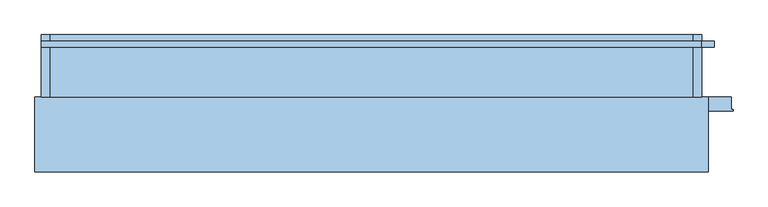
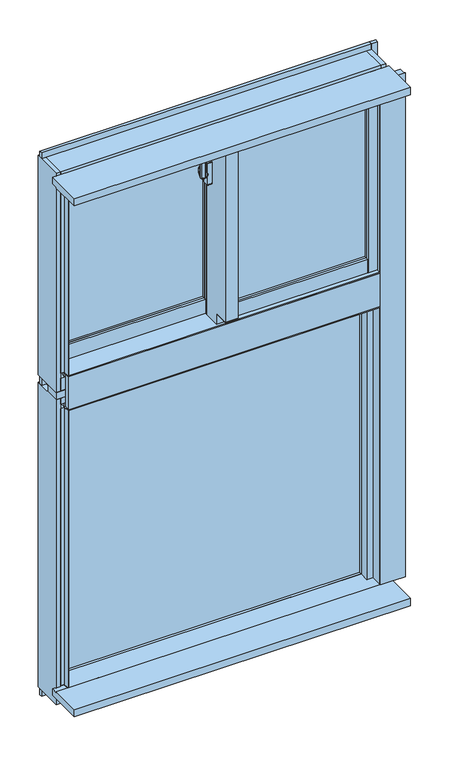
"""IFC4 building model written with IfcOpenShell, lengths in millimetres: window geometry, FNSⅡ100R_非防火_面付枠_段窓_分解無目 : 隠蔽式突出排煙/引違."""

from ifc_helpers import new_model, si_unit, point, frame, frame_2d, origin, place, context, project, spatial, polyline, circle_curve, trimmed, segment, composite_curve, outline, extrude, faceted_brep, source, transform, mapped, element, save
from ifc_brep_helpers import plane_surface, cylinder_surface, revolved_surface, advanced_brep


def window_3053c77e(model_context):
    return source(origin(), model_context, "Body", "SolidModel", [
        extrude(outline(composite_curve([segment(polyline([(-39.0, 34.6), (-39.0, 26.4)]), True, "CONTINUOUS"), segment(trimmed(circle_curve(frame_2d((-41.0, 26.4)), 2.0), [point((-39.0, 26.4))], [point((-41.3606557, 24.4327869))], False, "CARTESIAN"), True, "CONTINUOUS"), segment(polyline([(-41.3606557, 24.4327869), (-52.3606557, 26.4494536)]), True, "CONTINUOUS"), segment(trimmed(circle_curve(frame_2d((-52.0, 28.4166667)), 2.0), [point((-52.3606557, 26.4494536))], [point((-54.0, 28.4166667))], False, "CARTESIAN"), True, "CONTINUOUS"), segment(polyline([(-54.0, 28.4166667), (-54.0, 32.5833333)]), True, "CONTINUOUS"), segment(trimmed(circle_curve(frame_2d((-52.0, 32.5833333)), 2.0), [point((-54.0, 32.5833333))], [point((-52.3606557, 34.5505464))], False, "CARTESIAN"), True, "CONTINUOUS"), segment(polyline([(-52.3606557, 34.5505464), (-41.3606557, 36.5672131)]), True, "CONTINUOUS"), segment(trimmed(circle_curve(frame_2d((-41.0, 34.6)), 2.0), [point((-41.3606557, 36.5672131))], [point((-39.0, 34.6))], False, "CARTESIAN"), True, "CONTINUOUS")], self_intersect=False)), frame((0.0, 0.0, 2450.0), z_axis=(0.0, 0.0, 1.0), x_axis=(1.0, 0.0, 0.0)), (0.0, 0.0, 1.0), 100.0),
        advanced_brep(
        [(-37.5, 38.8234285, 2481.7333311), (-45.5, 38.8234285, 2481.7333311), (-45.5, 38.4351999, 2480.2844424), (-39.0, 38.4351999, 2480.2844424), (-39.0, 36.6234666, 2473.5229616), (-37.5, 36.6234666, 2473.5229616), (-39.0, 36.6466117, 2439.3190372), (-45.5, 36.6466117, 2439.3190372), (-45.5, 36.907084, 2437.8418256), (-37.5, 36.907084, 2437.8418256), (-37.5, 35.4310745, 2446.2126915), (-39.0, 35.4310745, 2446.2126915)],
        [
            (0, 1),
            (1, 2),
            (2, 3),
            (3, 4),
            (4, 5),
            (5, 0),
            (6, 7),
            (7, 8),
            (8, 9),
            (9, 10),
            (10, 11),
            (11, 6),
            (0, 9, circle_curve(frame((-37.5, 33.0, 2460.0), z_axis=(-1.0, 0.0, 0.0), x_axis=(0.0, 0.25881904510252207, 0.965925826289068)), 22.5)),
            (8, 1, circle_curve(frame((-45.5, 33.0, 2460.0), z_axis=(1.0, 0.0, 0.0), x_axis=(0.0, 0.25881904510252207, 0.965925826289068)), 22.5)),
            (7, 2, circle_curve(frame((-45.5, 33.0, 2460.0), z_axis=(1.0, 0.0, 0.0), x_axis=(0.0, 0.25881904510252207, 0.965925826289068)), 21.0)),
            (6, 3, circle_curve(frame((-39.0, 33.0, 2460.0), z_axis=(1.0, 0.0, 0.0), x_axis=(0.0, 0.25881904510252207, 0.965925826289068)), 21.0)),
            (11, 4, circle_curve(frame((-39.0, 33.0, 2460.0), z_axis=(-1.0, 0.0, 0.0), x_axis=(0.0, -1.0, 0.0)), 14.0)),
            (5, 10, circle_curve(frame((-37.5, 33.0, 2460.0), z_axis=(1.0, 0.0, 0.0), x_axis=(0.0, -1.0, 0.0)), 14.0)),
        ],
        [
            plane_surface(frame((-43.5470497, 33.0, 2460.0), z_axis=(0.0, -0.965925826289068, 0.25881904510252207), x_axis=(0.0, 0.25881904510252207, 0.965925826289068))),
            plane_surface(frame((-43.5470497, 33.0, 2460.0), z_axis=(0.0, -0.9848077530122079, -0.17364817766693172), x_axis=(0.0, 0.17364817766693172, -0.9848077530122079))),
            cylinder_surface(frame((-43.5470497, 33.0, 2460.0), z_axis=(-1.0, 0.0, 0.0), x_axis=(0.0, 0.25881904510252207, 0.965925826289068)), 22.5),
            plane_surface(frame((-45.5, 33.0, 2460.0), z_axis=(-1.0, 0.0, 0.0), x_axis=(0.0, 0.25881904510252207, 0.965925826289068))),
            revolved_surface(polyline([(-45.5, 38.43519994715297, 2480.2844423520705), (-39.0, 38.43519994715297, 2480.2844423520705)]), (-43.5470497, 33.0, 2460.0), (-1.0, 0.0, 0.0)),
            plane_surface(frame((-39.0, 33.0, 2460.0), z_axis=(-1.0, 0.0, 0.0), x_axis=(0.0, 0.25881904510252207, 0.965925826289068))),
            plane_surface(frame((-37.5, 33.0, 2460.0), z_axis=(1.0, 0.0, 0.0), x_axis=(0.0, 0.25881904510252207, 0.965925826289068))),
            cylinder_surface(frame((-37.5, 33.0, 2460.0), z_axis=(-1.0, 0.0, 0.0), x_axis=(0.0, -1.0, 0.0)), 14.0),
        ],
        [
            (0, [[1, 2, 3, 4, 5, 6]]),
            (1, [[7, 8, 9, 10, 11, 12]]),
            (2, [[-1, 13, -9, 14]]),
            (3, [[-2, -14, -8, 15]]),
            (4, [[-3, -15, -7, 16]]),
            (5, [[-16, -12, 17, -4]]),
            (6, [[-13, -6, 18, -10]]),
            (7, [[-17, -11, -18, -5]]),
        ],
    ),
        extrude(outline(composite_curve([segment(trimmed(circle_curve(frame_2d((33.0, 2460.0)), 11.5), [point((44.5, 2460.0))], [point((21.5, 2460.0))], False, "CARTESIAN"), True, "CONTINUOUS"), segment(trimmed(circle_curve(frame_2d((33.0, 2460.0)), 11.5), [point((21.5, 2460.0))], [point((44.5, 2460.0))], False, "CARTESIAN"), True, "CONTINUOUS")], self_intersect=False)), frame((-37.5, 0.0, 0.0), z_axis=(1.0, 0.0, 0.0), x_axis=(0.0, 1.0, 0.0)), (0.0, 0.0, 1.0), 2.5),
        extrude(outline(composite_curve([segment(polyline([(24.0, 2497.5), (42.0, 2497.5)]), True, "CONTINUOUS"), segment(trimmed(circle_curve(frame_2d((42.0, 2495.5)), 2.0), [point((42.0, 2497.5))], [point((44.0, 2495.5))], False, "CARTESIAN"), True, "CONTINUOUS"), segment(polyline([(44.0, 2495.5), (44.0, 2424.5)]), True, "CONTINUOUS"), segment(trimmed(circle_curve(frame_2d((42.0, 2424.5)), 2.0), [point((44.0, 2424.5))], [point((42.0, 2422.5))], False, "CARTESIAN"), True, "CONTINUOUS"), segment(polyline([(42.0, 2422.5), (24.0, 2422.5)]), True, "CONTINUOUS"), segment(trimmed(circle_curve(frame_2d((24.0, 2424.5)), 2.0), [point((24.0, 2422.5))], [point((22.0, 2424.5))], False, "CARTESIAN"), True, "CONTINUOUS"), segment(polyline([(22.0, 2424.5), (22.0, 2495.5)]), True, "CONTINUOUS"), segment(trimmed(circle_curve(frame_2d((24.0, 2495.5)), 2.0), [point((22.0, 2495.5))], [point((24.0, 2497.5))], False, "CARTESIAN"), True, "CONTINUOUS")], self_intersect=False)), frame((-35.0, 0.0, 0.0), z_axis=(1.0, 0.0, 0.0), x_axis=(0.0, 1.0, 0.0)), (0.0, 0.0, 1.0), 15.0),
        extrude(outline(polyline([(20.0, 24.0), (468.0, 24.0), (468.0, 18.0), (20.0, 18.0), (20.0, 24.0)])), frame((0.0, 0.0, 2008.0), z_axis=(0.0, 0.0, 1.0), x_axis=(1.0, 0.0, 0.0)), (0.0, 0.0, 1.0), 562.0),
        extrude(outline(polyline([(20.0, 42.0), (468.0, 42.0), (468.0, 36.0), (20.0, 36.0), (20.0, 42.0)])), frame((0.0, 0.0, 2008.0), z_axis=(0.0, 0.0, 1.0), x_axis=(1.0, 0.0, 0.0)), (0.0, 0.0, 1.0), 562.0),
        extrude(outline(polyline([(-468.0, 82.0), (-20.0, 82.0), (-20.0, 76.0), (-468.0, 76.0), (-468.0, 82.0)])), frame((0.0, 0.0, 2008.0), z_axis=(0.0, 0.0, 1.0), x_axis=(1.0, 0.0, 0.0)), (0.0, 0.0, 1.0), 562.0),
        extrude(outline(polyline([(-468.0, 100.0), (-20.0, 100.0), (-20.0, 94.0), (-468.0, 94.0), (-468.0, 100.0)])), frame((0.0, 0.0, 2008.0), z_axis=(0.0, 0.0, 1.0), x_axis=(1.0, 0.0, 0.0)), (0.0, 0.0, 1.0), 562.0),
        faceted_brep([(-500.0, 108.0, 2610.0), (-468.0, 108.0, 2610.0), (-468.0, 108.0, 1920.0), (-500.0, 108.0, 1920.0), (-500.0, 79.0, 1920.0), (-500.0, 79.0, 2610.0), (-489.5, 79.0, 1960.0), (-468.0, 79.0, 1960.0), (-468.0, 66.0, 1960.0), (-489.5, 66.0, 1960.0), (-468.0, 79.0, 1920.0), (-489.5, 79.0, 2610.0), (-489.5, 66.0, 2610.0), (-468.0, 66.0, 2610.0)], [[[0, 1, 2, 3]], [[4, 5, 0, 3]], [[6, 7, 8, 9]], [[10, 4, 3, 2]], [[5, 11, 12, 13, 1, 0]], [[11, 5, 4, 10, 7, 6]], [[12, 11, 6, 9]], [[13, 12, 9, 8]], [[1, 13, 8, 7, 10, 2]]]),
        faceted_brep([(-20.0, 108.0, 1920.0), (20.0, 108.0, 1920.0), (20.0, 79.0, 1920.0), (-20.0, 79.0, 1920.0), (-1.8, 65.5, 2610.0), (-20.0, 65.5, 2610.0), (-20.0, 65.5, 1960.0), (-1.8, 65.5, 1960.0), (-1.8, 53.1, 2610.0), (-1.8, 53.1, 1960.0), (20.0, 53.1, 2610.0), (20.0, 53.1, 1960.0), (-20.0, 108.0, 2610.0), (20.0, 108.0, 2610.0), (-20.0, 79.0, 1960.0), (20.0, 79.0, 1960.0)], [[[0, 1, 2, 3]], [[4, 5, 6, 7]], [[8, 4, 7, 9]], [[10, 8, 9, 11]], [[12, 13, 1, 0]], [[14, 15, 11, 9, 7, 6]], [[15, 14, 3, 2]], [[5, 4, 8, 10, 13, 12]], [[13, 10, 11, 15, 2, 1]], [[5, 12, 0, 3, 14, 6]]]),
        faceted_brep([(-20.0, 53.1, 1960.0), (-15.0, 53.1, 1960.0), (-15.0, 0.0, 1960.0), (-20.0, 0.0, 1960.0), (15.0, 12.0, 1960.0), (20.0, 12.0, 1960.0), (20.0, 0.0, 1960.0), (15.0, 0.0, 1960.0), (-15.0, 53.1, 2610.0), (-15.0, 0.0, 2610.0), (-15.0, 0.0, 2581.0), (-15.0, -42.0, 2581.0), (-15.0, -42.0, 1996.5), (-15.0, 0.0, 1996.5), (-20.0, 53.1, 2610.0), (-20.0, 0.0, 2610.0), (20.0, 12.0, 2610.0), (15.0, 12.0, 2610.0), (15.0, 0.0, 2610.0), (20.0, 0.0, 2610.0), (20.0, 0.0, 2581.0), (20.0, -50.0, 2581.0), (20.0, -50.0, 1996.5), (20.0, 0.0, 1996.5), (15.0, -42.0, 2581.0), (15.0, -42.0, 1996.5), (-20.0, 0.0, 1996.5), (-20.0, -50.0, 1996.5), (-20.0, -50.0, 2581.0), (-20.0, 0.0, 2581.0), (15.0, 0.0, 1996.5), (15.0, 0.0, 2581.0)], [[[0, 1, 2, 3]], [[4, 5, 6, 7]], [[1, 8, 9, 10, 11, 12, 13, 2]], [[14, 8, 1, 0]], [[8, 14, 15, 9]], [[16, 17, 18, 19]], [[5, 16, 19, 20, 21, 22, 23, 6]], [[24, 25, 12, 11]], [[14, 0, 3, 26, 27, 28, 29, 15]], [[28, 27, 22, 21]], [[17, 16, 5, 4]], [[17, 4, 7, 30, 25, 24, 31, 18]], [[13, 26, 3, 2]], [[23, 30, 7, 6]], [[26, 13, 12, 25, 30, 23, 22, 27]], [[10, 29, 28, 21, 20, 31, 24, 11]], [[29, 10, 9, 15]], [[31, 20, 19, 18]]]),
        faceted_brep([(-15.0, 53.1, 1960.0), (20.0, 53.1, 1960.0), (20.0, 12.0, 1960.0), (15.0, 12.0, 1960.0), (15.0, 0.0, 1960.0), (-15.0, 0.0, 1960.0), (-15.0, 53.1, 2610.0), (-15.0, 0.0, 1996.5), (-15.0, -42.0, 1996.5), (-15.0, -42.0, 2581.0), (-15.0, 0.0, 2581.0), (-15.0, 0.0, 2610.0), (20.0, 53.1, 2610.0), (15.0, 0.0, 2581.0), (15.0, -42.0, 2581.0), (20.0, 12.0, 2610.0), (15.0, 12.0, 2610.0), (15.0, 0.0, 2610.0), (15.0, -42.0, 1996.5), (15.0, 0.0, 1996.5)], [[[0, 1, 2, 3, 4, 5]], [[6, 0, 5, 7, 8, 9, 10, 11]], [[6, 12, 1, 0]], [[13, 10, 9, 14]], [[12, 15, 2, 1]], [[16, 15, 12, 6, 11, 17]], [[9, 8, 18, 14]], [[19, 7, 5, 4]], [[7, 19, 18, 8]], [[10, 13, 17, 11]], [[3, 16, 17, 13, 14, 18, 19, 4]], [[15, 16, 3, 2]]]),
        extrude(outline(polyline([(468.0, 0.0), (468.0, 8.0), (489.5, 8.0), (489.5, 21.0), (497.0, 21.0), (497.0, 0.0), (468.0, 0.0)])), frame((0.0, 0.0, 1963.0), z_axis=(0.0, 0.0, 1.0), x_axis=(1.0, 0.0, 0.0)), (0.0, 0.0, 1.0), 647.0),
        extrude(outline(polyline([(468.0, 50.0), (500.0, 50.0), (500.0, 21.0), (489.5, 21.0), (489.5, 8.0), (468.0, 8.0), (468.0, 50.0)])), frame((0.0, 0.0, 1960.0), z_axis=(0.0, 0.0, 1.0), x_axis=(1.0, 0.0, 0.0)), (0.0, 0.0, 1.0), 650.0),
        extrude(outline(polyline([(-1.85, 65.5), (-1.85, 58.0), (-20.0, 58.0), (-20.0, 65.5), (-1.85, 65.5)])), frame((0.0, 0.0, 1960.0), z_axis=(0.0, 0.0, 1.0), x_axis=(1.0, 0.0, 0.0)), (0.0, 0.0, 1.0), 650.0),
        extrude(outline(polyline([(-497.0, 79.0), (-489.5, 79.0), (-489.5, 66.0), (-468.0, 66.0), (-468.0, 58.0), (-497.0, 58.0), (-497.0, 79.0)])), frame((0.0, 0.0, 1960.0), z_axis=(0.0, 0.0, 1.0), x_axis=(1.0, 0.0, 0.0)), (0.0, 0.0, 1.0), 650.0),
        extrude(outline(polyline([(2.0, 1963.0), (2.0, 2008.0), (10.0, 2008.0), (10.0, 1985.5), (21.0, 1985.5), (21.0, 1963.0), (2.0, 1963.0)])), frame((20.0, 0.0, 0.0), z_axis=(1.0, 0.0, 0.0), x_axis=(0.0, 1.0, 0.0)), (0.0, 0.0, 1.0), 448.0),
        extrude(outline(polyline([(50.0, 1960.0), (21.0, 1960.0), (21.0, 1985.5), (10.0, 1985.5), (10.0, 2008.0), (50.0, 2008.0), (50.0, 1960.0)])), frame((20.0, 0.0, 0.0), z_axis=(1.0, 0.0, 0.0), x_axis=(0.0, 1.0, 0.0)), (0.0, 0.0, 1.0), 448.0),
        extrude(outline(polyline([(60.0, 2008.0), (68.0, 2008.0), (68.0, 1985.5), (79.0, 1985.5), (79.0, 1960.0), (60.0, 1960.0), (60.0, 2008.0)])), frame((-468.0, 0.0, 0.0), z_axis=(1.0, 0.0, 0.0), x_axis=(0.0, 1.0, 0.0)), (0.0, 0.0, 1.0), 448.0),
        extrude(outline(polyline([(108.0, 1920.0), (79.0, 1920.0), (79.0, 1985.5), (68.0, 1985.5), (68.0, 2008.0), (108.0, 2008.0), (108.0, 1920.0)])), frame((-468.0, 0.0, 0.0), z_axis=(1.0, 0.0, 0.0), x_axis=(0.0, 1.0, 0.0)), (0.0, 0.0, 1.0), 448.0),
        extrude(outline(polyline([(23.0, 2590.5), (10.0, 2590.5), (10.0, 2570.0), (2.0, 2570.0), (2.0, 2610.0), (23.0, 2610.0), (23.0, 2590.5)])), frame((20.0, 0.0, 0.0), z_axis=(1.0, 0.0, 0.0), x_axis=(0.0, 1.0, 0.0)), (0.0, 0.0, 1.0), 448.0),
        extrude(outline(polyline([(50.0, 2610.0), (50.0, 2570.0), (10.0, 2570.0), (10.0, 2590.5), (23.0, 2590.5), (23.0, 2610.0), (50.0, 2610.0)])), frame((20.0, 0.0, 0.0), z_axis=(1.0, 0.0, 0.0), x_axis=(0.0, 1.0, 0.0)), (0.0, 0.0, 1.0), 448.0),
        extrude(outline(polyline([(81.0, 2590.5), (68.0, 2590.5), (68.0, 2570.0), (60.0, 2570.0), (60.0, 2610.0), (81.0, 2610.0), (81.0, 2590.5)])), frame((-468.0, 0.0, 0.0), z_axis=(1.0, 0.0, 0.0), x_axis=(0.0, 1.0, 0.0)), (0.0, 0.0, 1.0), 448.0),
        extrude(outline(polyline([(108.0, 2610.0), (108.0, 2570.0), (68.0, 2570.0), (68.0, 2590.5), (81.0, 2590.5), (81.0, 2610.0), (108.0, 2610.0)])), frame((-468.0, 0.0, 0.0), z_axis=(1.0, 0.0, 0.0), x_axis=(0.0, 1.0, 0.0)), (0.0, 0.0, 1.0), 448.0),
        extrude(outline(polyline([(0.0, 2581.0), (-50.0, 2581.0), (-50.0, 2582.0), (-1.0, 2582.0), (-1.0, 2610.0), (0.0, 2610.0), (0.0, 2581.0)])), frame((-20.0, 0.0, 0.0), z_axis=(1.0, 0.0, 0.0), x_axis=(0.0, 1.0, 0.0)), (0.0, 0.0, 1.0), 40.0),
        extrude(outline(polyline([(0.0, 1996.5), (0.0, 1960.0), (-1.0, 1960.0), (-1.0, 1995.5), (-50.0, 1995.5), (-50.0, 1996.5), (0.0, 1996.5)])), frame((-20.0, 0.0, 0.0), z_axis=(1.0, 0.0, 0.0), x_axis=(0.0, 1.0, 0.0)), (0.0, 0.0, 1.0), 40.0),
        extrude(outline(polyline([(-15.0, 80.3), (-15.0, 31.9), (-500.0, 31.9), (-500.0, 80.3), (-15.0, 80.3)])), frame((0.0, 0.0, 2610.0), z_axis=(0.0, 0.0, 1.0), x_axis=(1.0, 0.0, 0.0)), (0.0, 0.0, 1.0), 25.0),
        faceted_brep([(515.0, 80.3, 2635.0), (515.0, 10.0, 2635.0), (-515.0, 10.0, 2635.0), (-515.0, 80.3, 2635.0), (-15.0, 80.3, 2635.0), (-15.0, 31.9, 2635.0), (500.0, 31.9, 2635.0), (500.0, 80.3, 2635.0), (-515.0, 80.3, 2610.0), (-15.0, 80.3, 2610.0), (515.0, 80.3, 2610.0), (500.0, 80.3, 2610.0), (515.0, 110.0, 2645.0), (515.0, 110.0, 2610.0), (-515.0, 110.0, 2610.0), (-515.0, 110.0, 2645.0), (500.0, 31.9, 2610.0), (-15.0, 31.9, 2610.0), (515.0, 10.0, 2645.0), (-515.0, 10.0, 2645.0)], [[[0, 1, 2, 3, 4, 5, 6, 7]], [[3, 8, 9, 4]], [[10, 0, 7, 11]], [[12, 13, 14, 15]], [[13, 10, 11, 16, 17, 9, 8, 14]], [[18, 12, 15, 19]], [[1, 18, 19, 2]], [[13, 12, 18, 1, 0, 10]], [[14, 8, 3, 2, 19, 15]], [[6, 16, 11, 7]], [[9, 17, 5, 4]], [[16, 6, 5, 17]]]),
        extrude(outline(polyline([(31.9, 2610.0), (-10.0, 2610.0), (-10.0, 2613.0), (10.0, 2613.0), (10.0, 2635.0), (31.9, 2635.0), (31.9, 2610.0)])), frame((-500.0, 0.0, 0.0), z_axis=(1.0, 0.0, 0.0), x_axis=(0.0, 1.0, 0.0)), (0.0, 0.0, 1.0), 1000.0),
        faceted_brep([(503.0, -10.0, 1960.0), (503.0, 10.0, 1960.0), (503.0, 10.0, 2613.0), (503.0, -10.0, 2613.0), (500.0, -10.0, 1960.0), (500.0, -10.0, 2613.0), (500.0, 10.0, 2630.0), (515.0, 10.0, 2630.0), (515.0, 14.5, 2630.0), (500.0, 14.5, 2630.0), (500.0, 14.5, 1960.0), (515.0, 14.5, 1960.0), (515.0, 10.0, 1960.0), (500.0, 10.0, 2613.0)], [[[0, 1, 2, 3]], [[4, 0, 3, 5]], [[6, 7, 8, 9]], [[4, 10, 11, 12, 1, 0]], [[6, 13, 2, 1, 12, 7]], [[8, 7, 12, 11]], [[9, 8, 11, 10]], [[10, 4, 5, 13, 6, 9]], [[2, 13, 5, 3]]]),
        faceted_brep([(-500.0, -10.0, 1960.0), (-500.0, 76.0, 1960.0), (-500.0, 76.0, 2630.0), (-500.0, 10.0, 2630.0), (-500.0, 10.0, 2613.0), (-500.0, -10.0, 2613.0), (-515.0, 10.0, 1960.0), (-503.0, 10.0, 1960.0), (-503.0, 10.0, 2613.0), (-515.0, 10.0, 2630.0), (-515.0, 76.0, 2630.0), (-515.0, 76.0, 1960.0), (-503.0, -10.0, 1960.0), (-503.0, -10.0, 2613.0)], [[[0, 1, 2, 3, 4, 5]], [[6, 7, 8, 4, 3, 9]], [[9, 3, 2, 10]], [[6, 11, 1, 0, 12, 7]], [[7, 12, 13, 8]], [[12, 0, 5, 13]], [[10, 2, 1, 11]], [[6, 9, 10, 11]], [[4, 8, 13, 5]]]),
        faceted_brep([(-530.0, 110.0, 1900.0), (-515.0, 110.0, 1900.0), (-515.0, 10.0, 1900.0), (-530.0, 10.0, 1900.0), (-530.0, 10.0, 2645.0), (-530.0, 110.0, 2645.0), (-515.0, 110.0, 2645.0), (-515.0, 10.0, 2645.0), (-515.0, 110.0, 1909.0), (-515.0, 76.0, 1909.0), (-515.0, 76.0, 2610.0), (-515.0, 110.0, 2610.0), (-500.0, 110.0, 2610.0), (-500.0, 110.0, 1909.0), (-500.0, 76.0, 2610.0), (-500.0, 76.0, 1909.0)], [[[0, 1, 2, 3]], [[4, 5, 0, 3]], [[6, 7, 2, 1, 8, 9, 10, 11]], [[5, 4, 7, 6]], [[7, 4, 3, 2]], [[5, 6, 11, 12, 13, 8, 1, 0]], [[12, 11, 10, 14]], [[13, 15, 9, 8]], [[14, 10, 9, 15]], [[12, 14, 15, 13]]]),
        faceted_brep([(515.0, 10.0, 1900.0), (515.0, 110.0, 1900.0), (530.0, 110.0, 1900.0), (530.0, 10.0, 1900.0), (530.0, 10.0, 2645.0), (515.0, 10.0, 2645.0), (515.0, 14.5, 2610.0), (500.0, 14.5, 2610.0), (500.0, 14.5, 1909.0), (515.0, 14.5, 1909.0), (500.0, 110.0, 2610.0), (500.0, 110.0, 1909.0), (530.0, 110.0, 2645.0), (515.0, 110.0, 2645.0), (515.0, 110.0, 2610.0), (515.0, 110.0, 1909.0)], [[[0, 1, 2, 3]], [[4, 5, 0, 3]], [[6, 7, 8, 9]], [[7, 10, 11, 8]], [[5, 4, 12, 13]], [[7, 6, 14, 10]], [[8, 11, 15, 9]], [[12, 4, 3, 2]], [[13, 12, 2, 1, 15, 11, 10, 14]], [[5, 13, 14, 6, 9, 15, 1, 0]]]),
        faceted_brep([(515.0, 110.0, 1900.0), (515.0, 110.0, 1909.0), (515.0, 76.0, 1909.0), (515.0, 76.0, 1944.0), (515.0, 10.0, 1944.0), (515.0, 10.0, 1900.0), (-515.0, 110.0, 1900.0), (-515.0, 10.0, 1900.0), (-515.0, 10.0, 1944.0), (-515.0, 76.0, 1944.0), (-515.0, 76.0, 1909.0), (-515.0, 110.0, 1909.0), (500.0, 37.25, 1944.0), (500.0, 18.8, 1944.0), (-15.0, 18.8, 1944.0), (-15.0, 37.25, 1944.0), (500.0, 18.8, 1960.0), (500.0, 37.25, 1960.0), (-15.0, 18.8, 1960.0), (-15.0, 37.25, 1960.0)], [[[0, 1, 2, 3, 4, 5]], [[6, 7, 8, 9, 10, 11]], [[3, 2, 10, 9]], [[0, 5, 7, 6]], [[2, 1, 11, 10]], [[4, 3, 9, 8], [12, 13, 14, 15]], [[5, 4, 8, 7]], [[1, 0, 6, 11]], [[16, 13, 12, 17]], [[18, 19, 15, 14]], [[13, 16, 18, 14]], [[17, 12, 15, 19]], [[16, 17, 19, 18]]]),
        faceted_brep([(-503.0, 10.0, 1944.0), (-503.0, 10.0, 1957.0), (-503.0, -10.0, 1957.0), (-503.0, -10.0, 1960.0), (-503.0, 18.8, 1960.0), (-503.0, 18.8, 1944.0), (503.0, 10.0, 1944.0), (503.0, 10.0, 1957.0), (500.0, 14.5, 1960.0), (500.0, 14.5, 1944.0), (500.0, 18.8, 1944.0), (500.0, 18.8, 1960.0), (503.0, -10.0, 1957.0), (503.0, -10.0, 1960.0), (503.0, 14.5, 1960.0), (-15.0, 18.8, 1960.0), (-15.0, 76.0, 1960.0), (-500.0, 76.0, 1960.0), (-500.0, 18.8, 1960.0), (503.0, 14.5, 1944.0), (-500.0, 18.8, 1944.0), (-15.0, 18.8, 1944.0), (-500.0, 76.0, 1944.0), (-15.0, 76.0, 1944.0)], [[[0, 1, 2, 3, 4, 5]], [[6, 7, 1, 0]], [[8, 9, 10, 11]], [[7, 12, 2, 1]], [[12, 13, 3, 2]], [[4, 3, 13, 14, 8, 11, 15, 16, 17, 18]], [[9, 8, 14, 19]], [[13, 12, 7, 6, 19, 14]], [[5, 4, 18, 20]], [[11, 10, 21, 15]], [[0, 5, 20, 22, 23, 21, 10, 9, 19, 6]], [[16, 15, 21, 23]], [[17, 22, 20, 18]], [[16, 23, 22, 17]]]),
        extrude(outline(polyline([(-480.0, 75.6), (480.0, 75.6), (480.0, 69.6), (-480.0, 69.6), (-480.0, 75.6)])), frame((0.0, 0.0, 900.0), z_axis=(0.0, 0.0, 1.0), x_axis=(1.0, 0.0, 0.0)), (0.0, 0.0, 1.0), 920.0),
        extrude(outline(polyline([(-480.0, 93.6), (480.0, 93.6), (480.0, 87.6), (-480.0, 87.6), (-480.0, 93.6)])), frame((0.0, 0.0, 900.0), z_axis=(0.0, 0.0, 1.0), x_axis=(1.0, 0.0, 0.0)), (0.0, 0.0, 1.0), 920.0),
        faceted_brep([(-480.0, 60.0, 1820.0), (-515.0, 60.0, 1820.0), (-515.0, 60.0, 900.0), (-480.0, 60.0, 900.0), (-480.0, 110.0, 1820.0), (-480.0, 110.0, 900.0), (-515.0, 110.0, 1875.0), (-515.0, 10.0, 1875.0), (-515.0, 10.0, 840.0), (-515.0, 110.0, 840.0), (-515.0, 110.0, 900.0), (-515.0, 110.0, 1820.0), (-530.0, 110.0, 1875.0), (-530.0, 10.0, 1875.0), (-530.0, 110.0, 840.0), (-530.0, 10.0, 840.0)], [[[0, 1, 2, 3]], [[4, 0, 3, 5]], [[6, 7, 8, 9, 10, 2, 1, 11]], [[5, 3, 2, 10]], [[12, 13, 7, 6]], [[14, 9, 8, 15]], [[13, 12, 14, 15]], [[7, 13, 15, 8]], [[12, 6, 11, 4, 5, 10, 9, 14]], [[4, 11, 1, 0]]]),
        faceted_brep([(480.0, 60.0, 1820.0), (480.0, 110.0, 1820.0), (480.0, 110.0, 900.0), (480.0, 60.0, 900.0), (515.0, 60.0, 1820.0), (515.0, 60.0, 900.0), (530.0, 10.0, 1875.0), (515.0, 10.0, 1875.0), (515.0, 10.0, 840.0), (530.0, 10.0, 840.0), (530.0, 110.0, 1875.0), (530.0, 110.0, 840.0), (515.0, 110.0, 900.0), (515.0, 110.0, 1875.0), (515.0, 110.0, 840.0), (515.0, 110.0, 1820.0)], [[[0, 1, 2, 3]], [[4, 0, 3, 5]], [[6, 7, 8, 9]], [[10, 6, 9, 11]], [[5, 3, 2, 12]], [[10, 13, 7, 6]], [[11, 9, 8, 14]], [[13, 10, 11, 14, 12, 2, 1, 15]], [[7, 13, 15, 4, 5, 12, 14, 8]], [[15, 1, 0, 4]]]),
        extrude(outline(polyline([(500.0, -10.0), (500.0, 28.5), (480.0, 28.5), (480.0, 60.0), (515.0, 60.0), (515.0, 10.0), (503.0, 10.0), (503.0, -10.0), (500.0, -10.0)])), frame((0.0, 0.0, 900.0), z_axis=(0.0, 0.0, 1.0), x_axis=(1.0, 0.0, 0.0)), (0.0, 0.0, 1.0), 940.0),
        extrude(outline(polyline([(-515.0, 10.0), (-515.0, 60.0), (-480.0, 60.0), (-480.0, 28.5), (-500.0, 28.5), (-500.0, -10.0), (-503.0, -10.0), (-503.0, 10.0), (-515.0, 10.0)])), frame((0.0, 0.0, 900.0), z_axis=(0.0, 0.0, 1.0), x_axis=(1.0, 0.0, 0.0)), (0.0, 0.0, 1.0), 940.0),
        extrude(outline(polyline([(10.0, 884.0), (10.0, 897.0), (-10.0, 897.0), (-10.0, 900.0), (60.0, 900.0), (60.0, 884.0), (10.0, 884.0)])), frame((-503.0, 0.0, 0.0), z_axis=(1.0, 0.0, 0.0), x_axis=(0.0, 1.0, 0.0)), (0.0, 0.0, 1.0), 1006.0),
        extrude(outline(polyline([(110.0, 840.0), (10.0, 840.0), (10.0, 884.0), (60.0, 884.0), (60.0, 900.0), (110.0, 900.0), (110.0, 870.0), (91.0, 870.0), (91.0, 850.0), (110.0, 850.0), (110.0, 840.0)])), frame((-515.0, 0.0, 0.0), z_axis=(1.0, 0.0, 0.0), x_axis=(0.0, 1.0, 0.0)), (0.0, 0.0, 1.0), 1030.0),
        extrude(outline(polyline([(60.0, 1817.0), (26.0, 1817.0), (26.0, 1840.0), (-10.0, 1840.0), (-10.0, 1843.0), (10.0, 1843.0), (10.0, 1855.0), (60.0, 1855.0), (60.0, 1817.0)])), frame((-503.0, 0.0, 0.0), z_axis=(1.0, 0.0, 0.0), x_axis=(0.0, 1.0, 0.0)), (0.0, 0.0, 1.0), 1006.0),
        extrude(outline(polyline([(110.0, 1820.0), (60.0, 1820.0), (60.0, 1855.0), (10.0, 1855.0), (10.0, 1875.0), (110.0, 1875.0), (110.0, 1820.0)])), frame((-515.0, 0.0, 0.0), z_axis=(1.0, 0.0, 0.0), x_axis=(0.0, 1.0, 0.0)), (0.0, 0.0, 1.0), 1030.0),
        extrude(outline(polyline([(-110.0, 900.0), (-10.0, 900.0), (-10.0, 897.0), (10.0, 897.0), (10.0, 875.0), (-110.0, 875.0), (-110.0, 900.0)])), frame((-540.0, 0.0, 0.0), z_axis=(1.0, 0.0, 0.0), x_axis=(0.0, 1.0, 0.0)), (0.0, 0.0, 1.0), 1080.0),
        extrude(outline(polyline([(-530.0, 90.0), (-530.0, 100.0), (530.0, 100.0), (530.0, 90.0), (-530.0, 90.0)])), frame((0.0, 0.0, 820.0), z_axis=(0.0, 0.0, 1.0), x_axis=(1.0, 0.0, 0.0)), (0.0, 0.0, 1.0), 20.0),
        extrude(outline(polyline([(550.0, 90.0), (530.0, 90.0), (530.0, 100.0), (550.0, 100.0), (550.0, 90.0)])), frame((0.0, 0.0, 820.0), z_axis=(0.0, 0.0, 1.0), x_axis=(1.0, 0.0, 0.0)), (0.0, 0.0, 1.0), 1845.0),
        extrude(outline(polyline([(503.0, -10.0), (503.0, 10.0), (577.0, 10.0), (577.0, -10.0), (580.0, -10.0), (580.0, -12.5), (500.0, -12.5), (500.0, -10.0), (503.0, -10.0)])), frame((0.0, 0.0, 900.0), z_axis=(0.0, 0.0, 1.0), x_axis=(1.0, 0.0, 0.0)), (0.0, 0.0, 1.0), 1710.0),
        extrude(outline(polyline([(10.0, 2613.0), (-10.0, 2613.0), (-10.0, 2610.0), (-110.0, 2610.0), (-110.0, 2635.0), (10.0, 2635.0), (10.0, 2613.0)])), frame((-540.0, 0.0, 0.0), z_axis=(1.0, 0.0, 0.0), x_axis=(0.0, 1.0, 0.0)), (0.0, 0.0, 1.0), 1080.0),
        extrude(outline(polyline([(-530.0, 90.0), (-530.0, 100.0), (530.0, 100.0), (530.0, 90.0), (-530.0, 90.0)])), frame((0.0, 0.0, 1875.0), z_axis=(0.0, 0.0, 1.0), x_axis=(1.0, 0.0, 0.0)), (0.0, 0.0, 1.0), 25.0),
        extrude(outline(polyline([(-500.0, -10.0), (-500.0, 10.0), (500.0, 10.0), (500.0, -10.0), (-500.0, -10.0)])), frame((0.0, 0.0, 1843.0), z_axis=(0.0, 0.0, 1.0), x_axis=(1.0, 0.0, 0.0)), (0.0, 0.0, 1.0), 114.0),
        extrude(outline(polyline([(-530.0, 10.0), (-530.0, 53.5), (530.0, 53.5), (530.0, 10.0), (-530.0, 10.0)])), frame((0.0, 0.0, 1875.0), z_axis=(0.0, 0.0, 1.0), x_axis=(1.0, 0.0, 0.0)), (0.0, 0.0, 1.0), 25.0),
        extrude(outline(polyline([(-530.0, 90.0), (-530.0, 100.0), (530.0, 100.0), (530.0, 90.0), (-530.0, 90.0)])), frame((0.0, 0.0, 2645.0), z_axis=(0.0, 0.0, 1.0), x_axis=(1.0, 0.0, 0.0)), (0.0, 0.0, 1.0), 20.0),
    ])


if __name__ == "__main__":
    model = new_model("IFC4")
    model_context = context("Model", 3, world=origin())
    ifc_project = project(units=[si_unit("LENGTHUNIT", "METRE", prefix="MILLI")], contexts=[model_context])
    site = spatial("IfcSite", under=ifc_project)
    building = spatial("IfcBuilding", under=site)
    placement = place(None, origin())
    window_shape = window_3053c77e(model_context)
    element("IfcWindow", 1, ObjectType="FNSⅡ100R_非防火_面付枠_段窓_分解無目 : 隠蔽式突出排煙/引違", at=placement, inside=building, context=model_context, shape_type="MappedRepresentation", body=[
        mapped(window_shape, transform((0.0, 0.0, 0.0), x_axis=(1.0, 0.0, 0.0), y_axis=(0.0, 1.0, 0.0), z_axis=(0.0, 0.0, 1.0))),
    ])
    save(model, "model.ifc")
